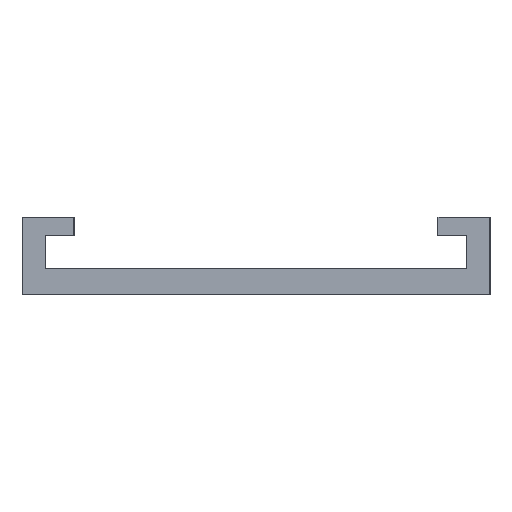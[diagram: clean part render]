
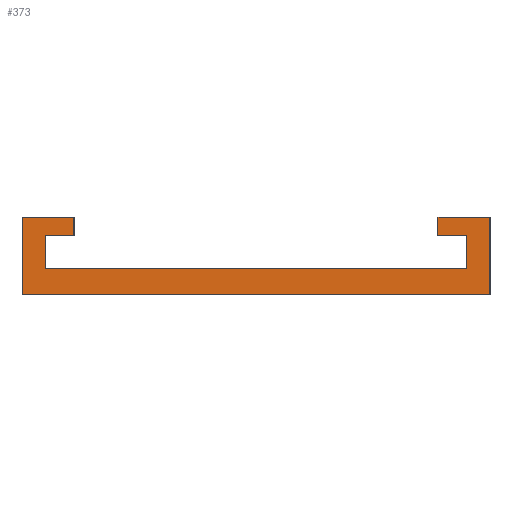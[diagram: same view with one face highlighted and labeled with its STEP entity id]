
A CAD part, left-side view. The second image highlights one B-rep face of the part: STEP entity #373.
In plain terms, the highlighted planar face has unit normal (-1, 0, 0).
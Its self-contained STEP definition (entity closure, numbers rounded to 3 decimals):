
#4 = CARTESIAN_POINT ( 'NONE',  ( 0., 45., 15. ) ) ;
#7 = DIRECTION ( 'NONE',  ( 0., 1., 0. ) ) ;
#9 = CARTESIAN_POINT ( 'NONE',  ( 0., -35., 15. ) ) ;
#18 = LINE ( 'NONE', #229, #162 ) ;
#20 = DIRECTION ( 'NONE',  ( 0., 0., 1. ) ) ;
#29 = EDGE_CURVE ( 'NONE', #355, #327, #139, .T. ) ;
#33 = CARTESIAN_POINT ( 'NONE',  ( 0., 0., 0. ) ) ;
#34 = LINE ( 'NONE', #209, #301 ) ;
#46 = DIRECTION ( 'NONE',  ( 0., 0., -1. ) ) ;
#58 = CARTESIAN_POINT ( 'NONE',  ( 0., -40.5, 5. ) ) ;
#59 = EDGE_CURVE ( 'NONE', #238, #270, #211, .T. ) ;
#64 = EDGE_CURVE ( 'NONE', #106, #386, #145, .T. ) ;
#66 = ORIENTED_EDGE ( 'NONE', *, *, #345, .F. ) ;
#67 = DIRECTION ( 'NONE',  ( 0., 0., -1. ) ) ;
#78 = CARTESIAN_POINT ( 'NONE',  ( 0., 35., 11.5 ) ) ;
#85 = VECTOR ( 'NONE', #171, 1000. ) ;
#91 = CARTESIAN_POINT ( 'NONE',  ( 0., 45., 0. ) ) ;
#92 = CARTESIAN_POINT ( 'NONE',  ( 0., -35., 11.5 ) ) ;
#96 = CARTESIAN_POINT ( 'NONE',  ( 0., 35., 15. ) ) ;
#97 = LINE ( 'NONE', #92, #367 ) ;
#98 = LINE ( 'NONE', #308, #267 ) ;
#105 = EDGE_LOOP ( 'NONE', ( #134, #428, #138, #208, #117, #259, #214, #152, #425, #66, #405, #242 ) ) ;
#106 = VERTEX_POINT ( 'NONE', #403 ) ;
#109 = CARTESIAN_POINT ( 'NONE',  ( 0., -45., 0. ) ) ;
#117 = ORIENTED_EDGE ( 'NONE', *, *, #297, .F. ) ;
#133 = DIRECTION ( 'NONE',  ( 0., 0., 1. ) ) ;
#134 = ORIENTED_EDGE ( 'NONE', *, *, #228, .F. ) ;
#136 = DIRECTION ( 'NONE',  ( 0., -1., 0. ) ) ;
#138 = ORIENTED_EDGE ( 'NONE', *, *, #146, .F. ) ;
#139 = LINE ( 'NONE', #4, #332 ) ;
#143 = VECTOR ( 'NONE', #200, 1000. ) ;
#145 = LINE ( 'NONE', #109, #362 ) ;
#146 = EDGE_CURVE ( 'NONE', #218, #106, #18, .T. ) ;
#152 = ORIENTED_EDGE ( 'NONE', *, *, #165, .F. ) ;
#160 = VERTEX_POINT ( 'NONE', #78 ) ;
#162 = VECTOR ( 'NONE', #46, 1000. ) ;
#165 = EDGE_CURVE ( 'NONE', #217, #264, #98, .T. ) ;
#169 = CARTESIAN_POINT ( 'NONE',  ( 0., -40.5, 11.5 ) ) ;
#170 = VECTOR ( 'NONE', #20, 1000. ) ;
#171 = DIRECTION ( 'NONE',  ( 0., 0., -1. ) ) ;
#186 = EDGE_CURVE ( 'NONE', #305, #217, #198, .T. ) ;
#191 = VERTEX_POINT ( 'NONE', #9 ) ;
#192 = DIRECTION ( 'NONE',  ( 0., 0., -1. ) ) ;
#198 = LINE ( 'NONE', #334, #437 ) ;
#200 = DIRECTION ( 'NONE',  ( 0., 1., 0. ) ) ;
#201 = CARTESIAN_POINT ( 'NONE',  ( 0., 40.5, 5. ) ) ;
#204 = CARTESIAN_POINT ( 'NONE',  ( 0., 40.5, 11.5 ) ) ;
#208 = ORIENTED_EDGE ( 'NONE', *, *, #451, .F. ) ;
#209 = CARTESIAN_POINT ( 'NONE',  ( 0., -35., 15. ) ) ;
#211 = LINE ( 'NONE', #368, #431 ) ;
#213 = DIRECTION ( 'NONE',  ( 1., 0., 0. ) ) ;
#214 = ORIENTED_EDGE ( 'NONE', *, *, #320, .F. ) ;
#217 = VERTEX_POINT ( 'NONE', #201 ) ;
#218 = VERTEX_POINT ( 'NONE', #450 ) ;
#220 = LINE ( 'NONE', #343, #143 ) ;
#228 = EDGE_CURVE ( 'NONE', #386, #355, #329, .T. ) ;
#229 = CARTESIAN_POINT ( 'NONE',  ( 0., -45., 15. ) ) ;
#234 = VECTOR ( 'NONE', #277, 1000. ) ;
#238 = VERTEX_POINT ( 'NONE', #169 ) ;
#241 = CARTESIAN_POINT ( 'NONE',  ( 0., -35., 11.5 ) ) ;
#242 = ORIENTED_EDGE ( 'NONE', *, *, #29, .F. ) ;
#246 = PLANE ( 'NONE',  #372 ) ;
#259 = ORIENTED_EDGE ( 'NONE', *, *, #59, .F. ) ;
#264 = VERTEX_POINT ( 'NONE', #448 ) ;
#267 = VECTOR ( 'NONE', #443, 1000. ) ;
#270 = VERTEX_POINT ( 'NONE', #241 ) ;
#277 = DIRECTION ( 'NONE',  ( 0., 0., 1. ) ) ;
#283 = CARTESIAN_POINT ( 'NONE',  ( 0., 45., 0. ) ) ;
#293 = DIRECTION ( 'NONE',  ( 0., -1., 0. ) ) ;
#297 = EDGE_CURVE ( 'NONE', #270, #191, #97, .T. ) ;
#301 = VECTOR ( 'NONE', #136, 1000. ) ;
#305 = VERTEX_POINT ( 'NONE', #204 ) ;
#308 = CARTESIAN_POINT ( 'NONE',  ( 0., 40.5, 5. ) ) ;
#309 = CARTESIAN_POINT ( 'NONE',  ( 0., 35., 15. ) ) ;
#311 = LINE ( 'NONE', #58, #170 ) ;
#320 = EDGE_CURVE ( 'NONE', #264, #238, #311, .T. ) ;
#327 = VERTEX_POINT ( 'NONE', #309 ) ;
#328 = FACE_OUTER_BOUND ( 'NONE', #105, .T. ) ;
#329 = LINE ( 'NONE', #91, #234 ) ;
#332 = VECTOR ( 'NONE', #293, 1000. ) ;
#334 = CARTESIAN_POINT ( 'NONE',  ( 0., 40.5, 11.5 ) ) ;
#343 = CARTESIAN_POINT ( 'NONE',  ( 0., 35., 11.5 ) ) ;
#345 = EDGE_CURVE ( 'NONE', #160, #305, #220, .T. ) ;
#355 = VERTEX_POINT ( 'NONE', #421 ) ;
#362 = VECTOR ( 'NONE', #7, 1000. ) ;
#367 = VECTOR ( 'NONE', #133, 1000. ) ;
#368 = CARTESIAN_POINT ( 'NONE',  ( 0., -40.5, 11.5 ) ) ;
#372 = AXIS2_PLACEMENT_3D ( 'NONE', #33, #213, #67 ) ;
#373 = ADVANCED_FACE ( 'NONE', ( #328 ), #246, .F. ) ;
#386 = VERTEX_POINT ( 'NONE', #283 ) ;
#403 = CARTESIAN_POINT ( 'NONE',  ( 0., -45., 0. ) ) ;
#404 = EDGE_CURVE ( 'NONE', #327, #160, #430, .T. ) ;
#405 = ORIENTED_EDGE ( 'NONE', *, *, #404, .F. ) ;
#421 = CARTESIAN_POINT ( 'NONE',  ( 0., 45., 15. ) ) ;
#425 = ORIENTED_EDGE ( 'NONE', *, *, #186, .F. ) ;
#428 = ORIENTED_EDGE ( 'NONE', *, *, #64, .F. ) ;
#430 = LINE ( 'NONE', #96, #85 ) ;
#431 = VECTOR ( 'NONE', #436, 1000. ) ;
#436 = DIRECTION ( 'NONE',  ( 0., 1., 0. ) ) ;
#437 = VECTOR ( 'NONE', #192, 1000. ) ;
#443 = DIRECTION ( 'NONE',  ( 0., -1., 0. ) ) ;
#448 = CARTESIAN_POINT ( 'NONE',  ( 0., -40.5, 5. ) ) ;
#450 = CARTESIAN_POINT ( 'NONE',  ( 0., -45., 15. ) ) ;
#451 = EDGE_CURVE ( 'NONE', #191, #218, #34, .T. ) ;
